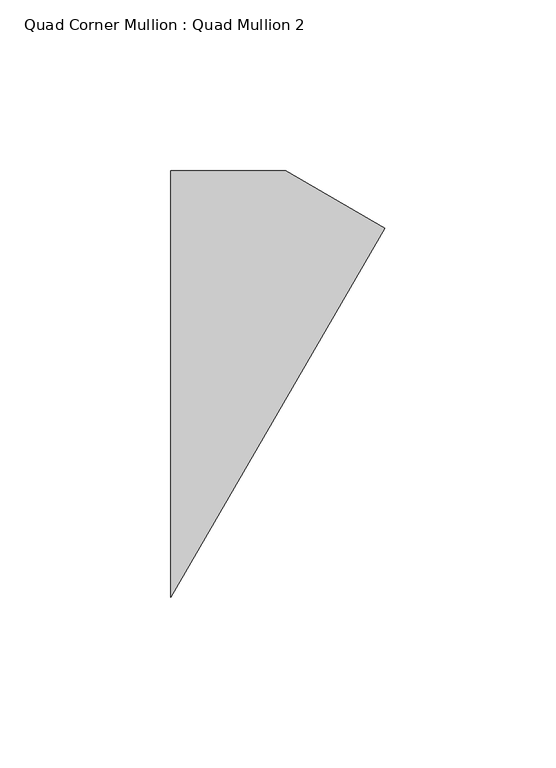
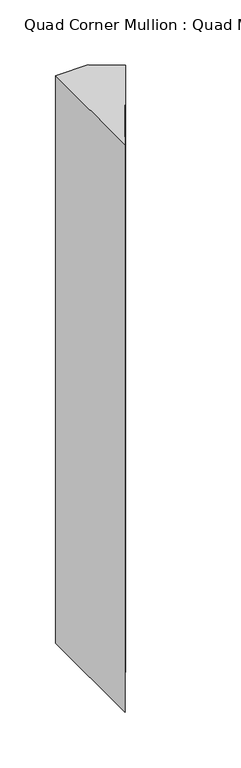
"""IFC4 building model written with IfcOpenShell, lengths in millimetres: member geometry, Quad Corner Mullion : Quad Mullion 2."""

from ifc_helpers import new_model, si_unit, frame, origin, place, context, project, spatial, polyline, outline, extrude, source, transform, mapped, element, save


def quad_corner_mullion_quad_mullion_2_7e3b55ea(model_context):
    return source(origin(), model_context, "Body", "SweptSolid", [
        extrude(outline(polyline([(45.9759722, 45.5661659), (-16.8468245, -62.5), (-16.8468245, 62.5), (16.8468245, 62.5), (45.9759722, 45.5661659)])), frame((0.0, 0.0, -622.5), z_axis=(0.0, 0.0, 1.0), x_axis=(1.0, 0.0, 0.0)), (0.0, 0.0, 1.0), 622.5),
    ])


if __name__ == "__main__":
    model = new_model("IFC4")
    model_context = context("Model", 3, world=origin())
    ifc_project = project(units=[si_unit("LENGTHUNIT", "METRE", prefix="MILLI")], contexts=[model_context])
    site = spatial("IfcSite", under=ifc_project)
    building = spatial("IfcBuilding", under=site)
    placement = place(None, origin())
    quad_corner_mullion_quad_mullion_2_shape = quad_corner_mullion_quad_mullion_2_7e3b55ea(model_context)
    element("IfcMember", 1, ObjectType="Quad Corner Mullion : Quad Mullion 2", at=placement, inside=building, context=model_context, shape_type="MappedRepresentation", body=[
        mapped(quad_corner_mullion_quad_mullion_2_shape, transform((0.0, 0.0, 0.0), x_axis=(1.0, 0.0, 0.0), y_axis=(0.0, 1.0, 0.0), z_axis=(0.0, 0.0, 1.0))),
    ])
    save(model, "model.ifc")
